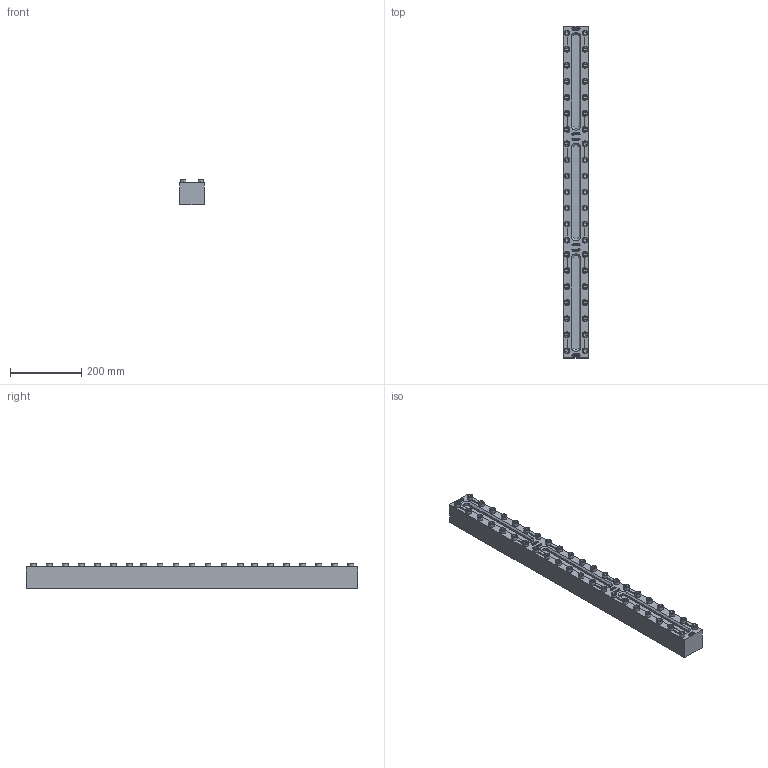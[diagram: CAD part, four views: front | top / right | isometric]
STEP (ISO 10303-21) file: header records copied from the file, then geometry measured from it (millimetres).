
FILE_DESCRIPTION(/* description */ (''),/* implementation_level */ '2;1');
FILE_NAME(/* name */ 'W:\Konstruktion_ACI\330\_Zeichnungen\STEP\ACI-330-930-40.stp',/* time_stamp */ '2022-03-01T17:29:21+01:00',/* author */ ('koslowksi'),/* organization */ (''),/* preprocessor_version */ 'ST-DEVELOPER v16.1',/* originating_system */ 'Autodesk Inventor 2016',/* authorisation */ '');
FILE_SCHEMA (('AUTOMOTIVE_DESIGN { 1 0 10303 214 3 1 1 }'));
Products named in the file (1): ACI-330-930-40.stp
Bounding box: 70 x 930 x 70.9 mm (x, y, z)
Volume: 3583717.6 mm3; surface area: 325175.1 mm2
Topology: 1 solids, 1 shells, 3756 faces, 10146 edges, 6746 vertices
Faces by surface type: plane 2706, bspline 906, cylinder 54, cone 48, torus 42
Full cylindrical faces by diameter (mm): 16 x42
Entity records: 123020 total; most frequent: CARTESIAN_POINT 32637, ORIENTED_EDGE 19872, DIRECTION 13730, EDGE_CURVE 9936, LINE 7716, VECTOR 7716, VERTEX_POINT 6662, EDGE_LOOP 4236
